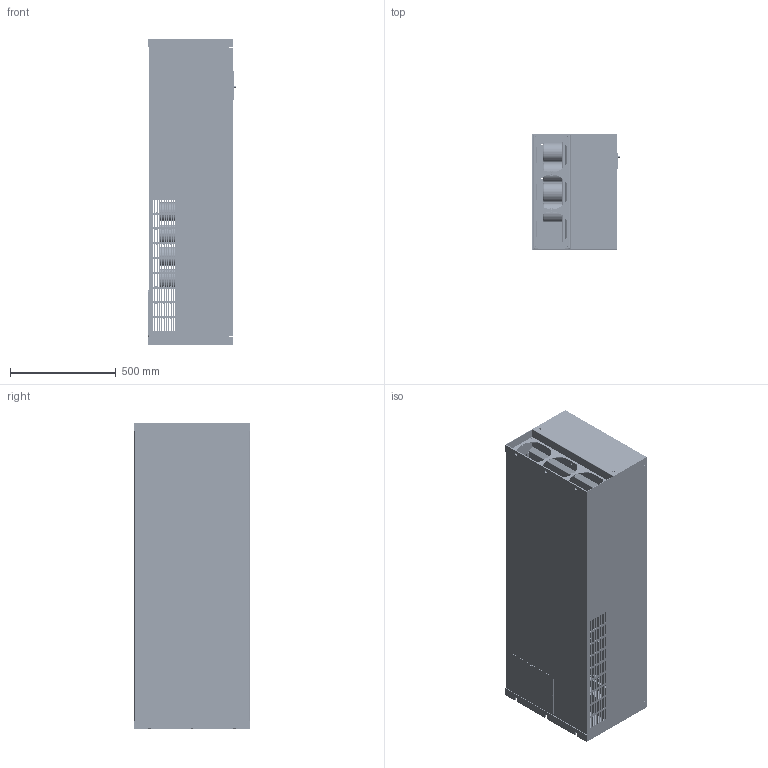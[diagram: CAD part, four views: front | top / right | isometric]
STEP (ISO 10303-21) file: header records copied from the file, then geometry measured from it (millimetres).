
FILE_DESCRIPTION(('STEP AP203'), '1');
FILE_NAME('Ïðåîáðàçîâàòåëü ÷àñòîòû _ MCI-G375_P400-4F', '', ('UNSPECIFIED'), ('UNSPECIFIED'), 'C3D Converter', 'C3D Toolkit', '');
FILE_SCHEMA(('CONFIG_CONTROL_DESIGN'));
Length unit declared in the file: millimetre
Products named in the file (61): МСI-G375_P400-4F; MCI-G375; MCI-MF-B; MCI-KP-B
Assembly tree (243 placements, depth 4):
  МСI-G375_P400-4F
    MCI-G375
      MCI-G375
      MCI-G375
      MCI-G375
        MCI-G375
        MCI-G375  x4
        MCI-G375  x4
      MCI-G375
      MCI-G375
        MCI-G375
        MCI-G375  x6
        MCI-G375  x4
      MCI-G375  x2
        MCI-G375
        MCI-G375
      MCI-G375
      MCI-G375
      MCI-G375  x2
        MCI-G375
        MCI-G375
      MCI-G375  x2
        MCI-G375
        MCI-G375
      MCI-G375  x2
        MCI-G375
        MCI-G375
      MCI-G375
      MCI-G375
        MCI-G375
        MCI-G375  x8
      MCI-G375
        MCI-G375
        MCI-G375  x6
      MCI-G375  x2
        MCI-G375
        MCI-G375
      MCI-G375  x23
      MCI-G375  x2
        MCI-G375
        MCI-G375
    MCI-G375
    MCI-G375
    MCI-G375
    MCI-G375
    MCI-G375
      MCI-G375
      MCI-G375  x10
      MCI-G375  x4
      MCI-G375  x2
      MCI-G375
      MCI-G375
      MCI-G375
    MCI-G375
      MCI-G375
      MCI-G375  x3
      MCI-G375  x4
      MCI-G375  x3
      MCI-G375
        MCI-G375
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Bounding box: 417.37 x 545 x 1450 mm (x, y, z)
Volume: 26084101.4 mm3; surface area: 11788464.2 mm2
Topology: 296 solids, 303 shells, 6770 faces, 16569 edges, 10716 vertices
Faces by surface type: plane 4717, cylinder 1887, revolution 56, extrusion 48, torus 36, bspline 12, cone 12, sphere 2
Full cylindrical faces by diameter (mm): 0.2 x2, 0.5 x16, 1 x66, 1.7 x2, 2 x4, 2.7 x4, 3 x26, 3.8 x24, 4 x95, 4.4 x18, 5 x102, 5.4 x160, 5.5 x4, 6 x30, 6.4 x36, 6.5 x2, 7 x21, 7.9 x73, 8 x45, 8.4 x4, 8.5 x8, 8.7 x26, 8.75 x10, 8.8 x18, 10.4 x5, 10.5 x4, 10.6 x1, 11 x18, 12 x3, 12.65 x4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
Entity records: 152827 total; most frequent: CARTESIAN_POINT 25922, DIRECTION 21484, ORIENTED_EDGE 21460, EDGE_CURVE 10736, VECTOR 8484, LINE 8436, VERTEX_POINT 7190, AXIS2_PLACEMENT_3D 6481
